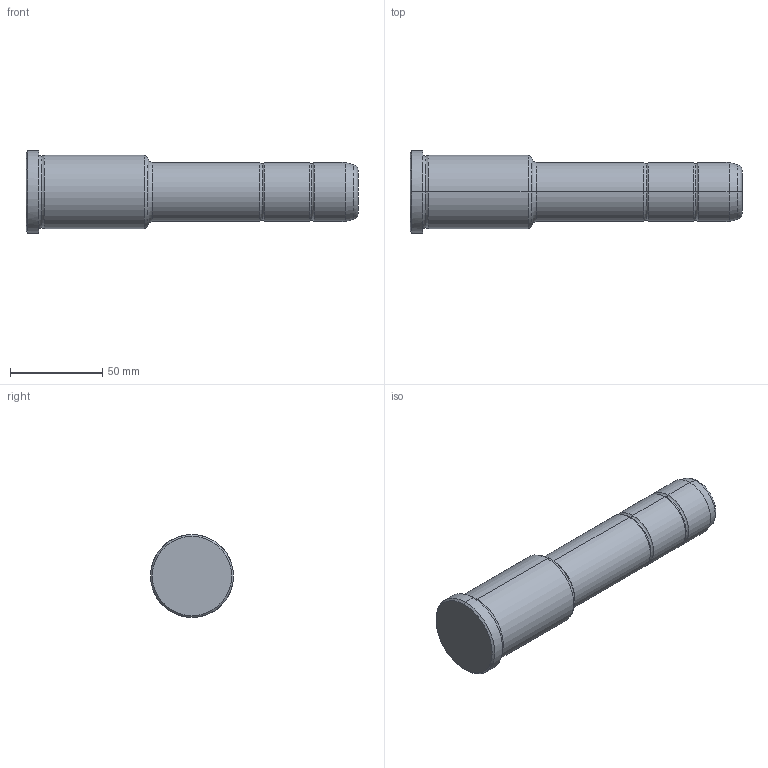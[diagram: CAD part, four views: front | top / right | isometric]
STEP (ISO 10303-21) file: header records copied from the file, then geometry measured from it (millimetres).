
FILE_DESCRIPTION(('CATIA V5 STEP Exchange'),'2;1');
FILE_NAME('C:\Users\Utente\Desktop\IO LAVORO\3D X SITO CF\X SITO\PLASTICA\351\351-32X66X180.stp','2021-09-07T12:28:56+00:00',('none'),('none'),'CATIA Version 5 Release 20 GA (IN-10)','CATIA V5 STEP AP203','none');
FILE_SCHEMA(('CONFIG_CONTROL_DESIGN'));
Length unit declared in the file: millimetre
Products named in the file (1): 351-32X66X180
Bounding box: 180 x 45 x 45 mm (x, y, z)
Volume: 175753.6 mm3; surface area: 22615.8 mm2
Topology: 1 solids, 1 shells, 36 faces, 102 edges, 70 vertices
Faces by surface type: torus 16, cylinder 10, cone 6, plane 4
Entity records: 1292 total; most frequent: CARTESIAN_POINT 321, ORIENTED_EDGE 204, DIRECTION 166, AXIS2_PLACEMENT_3D 115, EDGE_CURVE 102, CIRCLE 78, VERTEX_POINT 70, EDGE_LOOP 38
